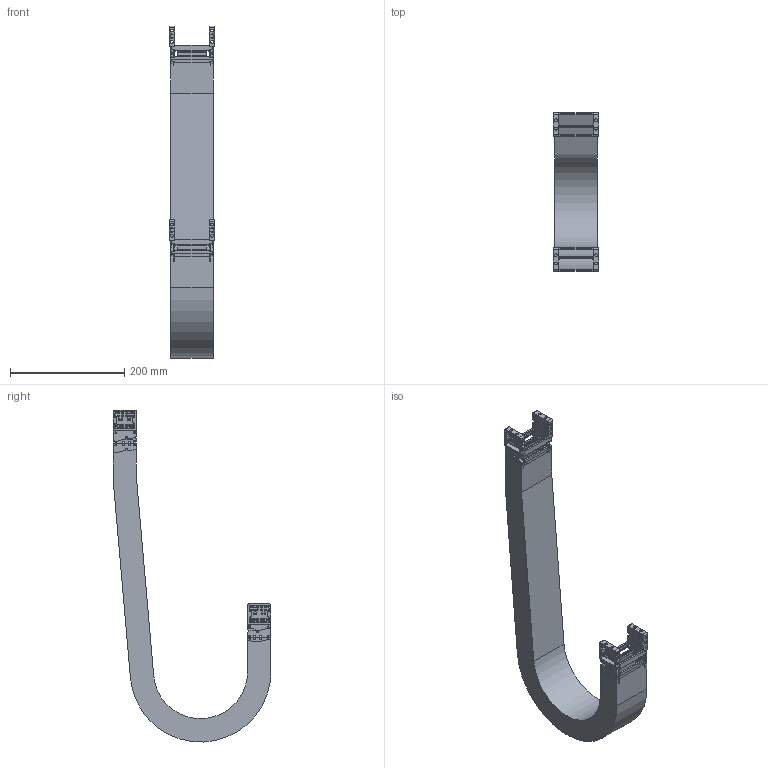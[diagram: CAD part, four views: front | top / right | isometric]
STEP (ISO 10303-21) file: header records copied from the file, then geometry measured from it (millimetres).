
FILE_DESCRIPTION((''),'2;1');
FILE_NAME('KST-30060-100_ASM','2017-12-06T',('KUNI004K'),(''),'PRO/ENGINEER BY PARAMETRIC TECHNOLOGY CORPORATION, 2015200','PRO/ENGINEER BY PARAMETRIC TECHNOLOGY CORPORATION, 2015200','');
FILE_SCHEMA(('AUTOMOTIVE_DESIGN { 1 0 10303 214 1 1 1 1 }'));
Length unit declared in the file: millimetre
Products named in the file (13): 30FBR; 30FBL; 25060C; 30FB_W060_ASM; 30100R; 30100L; 25060H; KST30060-100_1_ASM; KST30060_R100_BODY; 30MBR; 30MBL; 30MB_W060_ASM; KST-30060-100_ASM
Assembly tree (19 placements, depth 3):
  KST-30060-100_ASM
    30FB_W060_ASM
      30FBR
      30FBL
      25060C  x2
    KST30060-100_1_ASM  x2
      30100R
      30100L
      25060C
      25060H
    KST30060_R100_BODY
    30MB_W060_ASM
      30MBR
      30MBL
      25060C  x2
Bounding box: 80 x 277 x 582.18 mm (x, y, z)
Volume: 1073496.1 mm3; surface area: 492651.3 mm2
Topology: 21 solids, 21 shells, 2620 faces, 7214 edges, 4656 vertices
Faces by surface type: plane 1346, cylinder 930, bspline 216, torus 64, sphere 64
Entity records: 70688 total; most frequent: CARTESIAN_POINT 14910, ORIENTED_EDGE 7552, DIRECTION 6722, PRESENTATION_STYLE_ASSIGNMENT 5124, STYLED_ITEM 5124, CURVE_STYLE 3776, EDGE_CURVE 3776, VERTEX_POINT 2464
